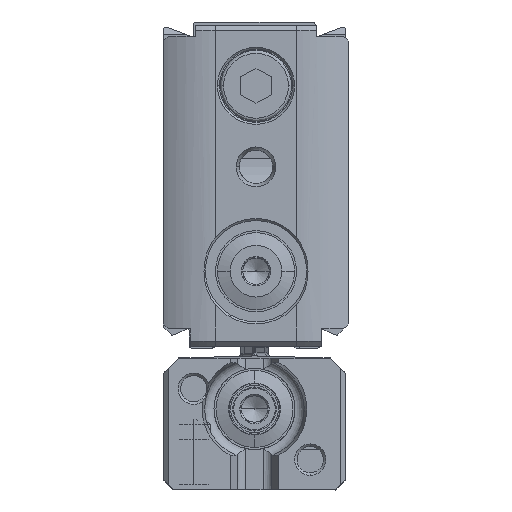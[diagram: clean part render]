
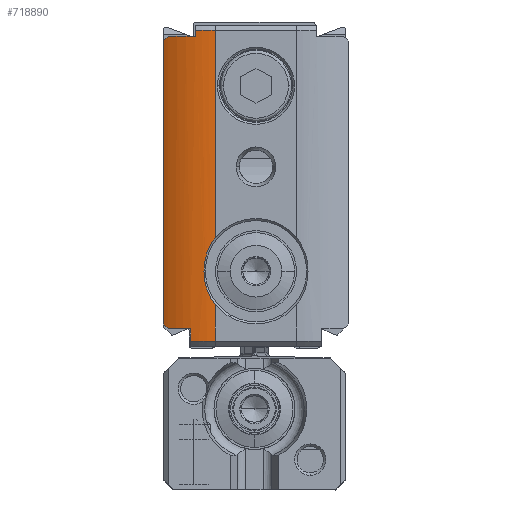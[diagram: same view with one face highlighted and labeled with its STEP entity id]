
A CAD part, left-side view. The second image highlights one B-rep face of the part: STEP entity #718890.
In plain terms, the highlighted cylindrical face has radius 10 mm (diameter 20 mm), a partial arc.
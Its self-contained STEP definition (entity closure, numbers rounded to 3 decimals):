
#713220=CARTESIAN_POINT('',(-513.638,34.15,
-50.083));
#713230=VERTEX_POINT('',#713220);
#713720=CARTESIAN_POINT('',(-513.333,31.7,
-50.083));
#713730=VERTEX_POINT('',#713720);
#713760=CARTESIAN_POINT('',(-503.638,34.15,
-50.083));
#713770=DIRECTION('',(0.,0.,-1.));
#713780=DIRECTION('',(0.,-1.,0.));
#713790=AXIS2_PLACEMENT_3D('',#713760,#713770,#713780);
#713800=CIRCLE('',#713790,10.);
#713810=EDGE_CURVE('',#713730,#713230,#713800,.T.);
#717380=CARTESIAN_POINT('',(-503.638,34.15,
-51.283));
#717390=DIRECTION('',(0.,0.,-1.));
#717400=DIRECTION('',(0.,-1.,0.));
#717410=AXIS2_PLACEMENT_3D('',#717380,#717390,#717400);
#717420=CIRCLE('',#717410,10.);
#717430=CARTESIAN_POINT('',(-512.491,29.5,
-51.283));
#717440=VERTEX_POINT('',#717430);
#717450=CARTESIAN_POINT('',(-513.333,31.7,
-51.283));
#717460=VERTEX_POINT('',#717450);
#717470=EDGE_CURVE('',#717440,#717460,#717420,.T.);
#717760=CARTESIAN_POINT('',(-513.333,31.7,
-81.283));
#717770=DIRECTION('',(0.,0.,-1.));
#717780=VECTOR('',#717770,1.);
#717790=LINE('',#717760,#717780);
#717800=EDGE_CURVE('',#713730,#717460,#717790,.T.);
#717870=CARTESIAN_POINT('',(-503.638,34.15,
-81.283));
#717880=DIRECTION('',(0.,0.,-1.));
#717890=DIRECTION('',(0.,-1.,0.));
#717900=AXIS2_PLACEMENT_3D('',#717870,#717880,#717890);
#717910=CYLINDRICAL_SURFACE('',#717900,10.);
#717920=ORIENTED_EDGE('',*,*,#717800,.F.);
#717930=ORIENTED_EDGE('',*,*,#717470,.T.);
#717940=CARTESIAN_POINT('',(-503.638,34.15,
-46.633));
#717950=DIRECTION('',(0.,-0.707,
0.707));
#717960=DIRECTION('',(0.,-0.707,
-0.707));
#717970=AXIS2_PLACEMENT_3D('',#717940,#717950,#717960);
#717980=ELLIPSE('',#717970,14.142,10.);
#717990=CARTESIAN_POINT('',(-512.21,29.,
-51.783));
#718000=VERTEX_POINT('',#717990);
#718010=EDGE_CURVE('',#717440,#718000,#717980,.T.);
#718020=ORIENTED_EDGE('',*,*,#718010,.F.);
#718030=CARTESIAN_POINT('',(-512.21,29.,
-81.283));
#718040=DIRECTION('',(0.,0.,-1.));
#718050=VECTOR('',#718040,1.);
#718060=LINE('',#718030,#718050);
#718070=CARTESIAN_POINT('',(-512.21,29.,
-79.683));
#718080=VERTEX_POINT('',#718070);
#718090=EDGE_CURVE('',#718000,#718080,#718060,.T.);
#718100=ORIENTED_EDGE('',*,*,#718090,.F.);
#718110=CARTESIAN_POINT('',(-503.638,34.15,
-84.833));
#718120=DIRECTION('',(0.,-0.707,
-0.707));
#718130=DIRECTION('',(0.,-0.707,
0.707));
#718140=AXIS2_PLACEMENT_3D('',#718110,#718120,#718130);
#718150=ELLIPSE('',#718140,14.142,10.);
#718160=CARTESIAN_POINT('',(-512.491,29.5,
-80.183));
#718170=VERTEX_POINT('',#718160);
#718180=EDGE_CURVE('',#718080,#718170,#718150,.T.);
#718190=ORIENTED_EDGE('',*,*,#718180,.F.);
#718200=CARTESIAN_POINT('',(-503.638,34.15,
-80.183));
#718210=DIRECTION('',(0.,0.,-1.));
#718220=DIRECTION('',(0.,-1.,0.));
#718230=AXIS2_PLACEMENT_3D('',#718200,#718210,#718220);
#718240=CIRCLE('',#718230,10.);
#718250=CARTESIAN_POINT('',(-513.436,32.15,
-80.183));
#718260=VERTEX_POINT('',#718250);
#718270=EDGE_CURVE('',#718170,#718260,#718240,.T.);
#718280=ORIENTED_EDGE('',*,*,#718270,.F.);
#718290=CARTESIAN_POINT('',(-513.436,32.15,
-81.283));
#718300=DIRECTION('',(0.,0.,-1.));
#718310=VECTOR('',#718300,1.);
#718320=LINE('',#718290,#718310);
#718330=CARTESIAN_POINT('',(-513.436,32.15,
-80.783));
#718340=VERTEX_POINT('',#718330);
#718350=EDGE_CURVE('',#718260,#718340,#718320,.T.);
#718360=ORIENTED_EDGE('',*,*,#718350,.F.);
#718370=CARTESIAN_POINT('',(-503.638,34.15,
-80.783));
#718380=DIRECTION('',(0.,0.,-1.));
#718390=DIRECTION('',(0.,-1.,0.));
#718400=AXIS2_PLACEMENT_3D('',#718370,#718380,#718390);
#718410=CIRCLE('',#718400,10.);
#718420=CARTESIAN_POINT('',(-513.638,34.15,
-80.783));
#718430=VERTEX_POINT('',#718420);
#718440=EDGE_CURVE('',#718340,#718430,#718410,.T.);
#718450=ORIENTED_EDGE('',*,*,#718440,.F.);
#718460=CARTESIAN_POINT('',(-513.638,34.15,
-37.853));
#718470=DIRECTION('',(0.,0.,-1.));
#718480=VECTOR('',#718470,1.);
#718490=LINE('',#718460,#718480);
#718500=CARTESIAN_POINT('',(-513.638,34.15,
-60.306));
#718510=VERTEX_POINT('',#718500);
#718520=EDGE_CURVE('',#718510,#718430,#718490,.T.);
#718530=ORIENTED_EDGE('',*,*,#718520,.T.);
#718540=CARTESIAN_POINT('',(-513.573,33.015,
-56.983));
#718550=CARTESIAN_POINT('',(-513.573,33.015,
-57.28));
#718560=CARTESIAN_POINT('',(-513.576,33.038,
-57.579));
#718570=CARTESIAN_POINT('',(-513.586,33.132,
-58.17));
#718580=CARTESIAN_POINT('',(-513.593,33.202,
-58.462));
#718590=CARTESIAN_POINT('',(-513.609,33.39,
-59.027));
#718600=CARTESIAN_POINT('',(-513.618,33.507,
-59.3));
#718610=CARTESIAN_POINT('',(-513.632,33.792,
-59.826));
#718620=CARTESIAN_POINT('',(-513.638,33.96,
-60.077));
#718630=CARTESIAN_POINT('',(-513.638,34.15,
-60.306));
#718640=B_SPLINE_CURVE_WITH_KNOTS('',3,(#718540,#718550,#718560,#718570,
#718580,#718590,#718600,#718610,#718620,#718630),.UNSPECIFIED.,.F.,.F.,(
4,2,2,2,4),(0.,0.896,1.794,2.688,
3.586),.UNSPECIFIED.);
#718650=CARTESIAN_POINT('',(-513.573,33.015,
-56.983));
#718660=VERTEX_POINT('',#718650);
#718670=EDGE_CURVE('',#718660,#718510,#718640,.T.);
#718680=ORIENTED_EDGE('',*,*,#718670,.T.);
#718690=CARTESIAN_POINT('',(-513.638,34.15,
-53.66));
#718700=CARTESIAN_POINT('',(-513.638,33.96,
-53.89));
#718710=CARTESIAN_POINT('',(-513.632,33.792,
-54.14));
#718720=CARTESIAN_POINT('',(-513.618,33.507,
-54.666));
#718730=CARTESIAN_POINT('',(-513.609,33.39,
-54.939));
#718740=CARTESIAN_POINT('',(-513.593,33.202,
-55.504));
#718750=CARTESIAN_POINT('',(-513.586,33.132,
-55.796));
#718760=CARTESIAN_POINT('',(-513.576,33.038,
-56.388));
#718770=CARTESIAN_POINT('',(-513.573,33.015,
-56.687));
#718780=CARTESIAN_POINT('',(-513.573,33.015,
-56.983));
#718790=B_SPLINE_CURVE_WITH_KNOTS('',3,(#718690,#718700,#718710,#718720,
#718730,#718740,#718750,#718760,#718770,#718780),.UNSPECIFIED.,.F.,.F.,(
4,2,2,2,4),(0.,0.898,1.792,2.69,
3.586),.UNSPECIFIED.);
#718800=CARTESIAN_POINT('',(-513.638,34.15,
-53.66));
#718810=VERTEX_POINT('',#718800);
#718820=EDGE_CURVE('',#718810,#718660,#718790,.T.);
#718830=ORIENTED_EDGE('',*,*,#718820,.T.);
#718840=EDGE_CURVE('',#713230,#718810,#718490,.T.);
#718850=ORIENTED_EDGE('',*,*,#718840,.T.);
#718860=ORIENTED_EDGE('',*,*,#713810,.T.);
#718870=EDGE_LOOP('',(#718860,#718850,#718830,#718680,#718530,#718450,
#718360,#718280,#718190,#718100,#718020,#717930,#717920));
#718880=FACE_OUTER_BOUND('',#718870,.T.);
#718890=ADVANCED_FACE('',(#718880),#717910,.T.);
